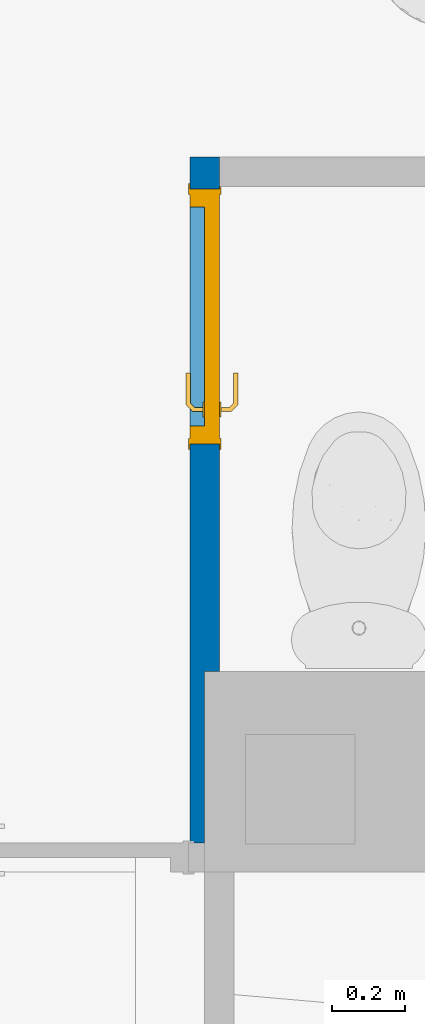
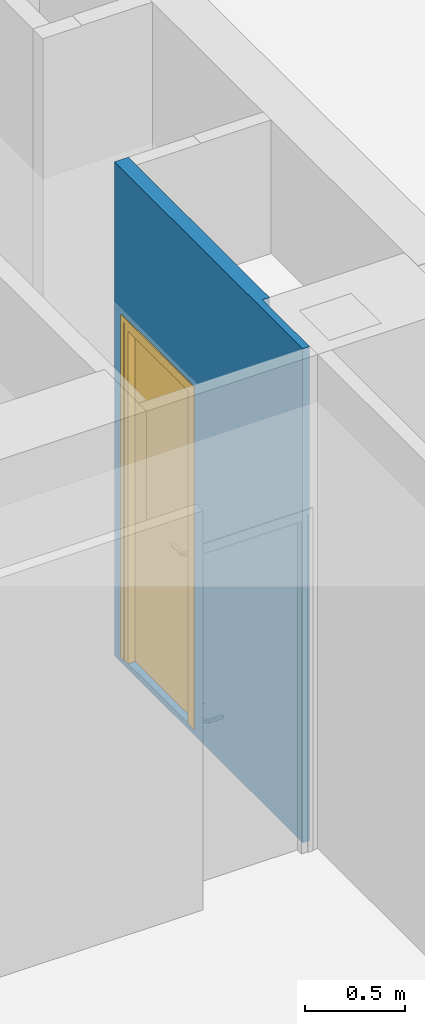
# One storey, part 47 of 97: 1 door, 1 wall, 1 opening.
"""IFC4 building model written with IfcOpenShell, lengths in metres."""

from ifc_helpers import new_model, entity, si_unit, converted_unit, derived_unit, direction, frame, origin, place, context, subcontext, project, spatial, indexed_curve, outline, extrude, polygons, source, transform, mapped, material, material_list, layer, layer_set, constituent, constituent_set, type_object, type_shapes, element, fill, save


model = new_model("IFC4")

# Units and contexts
model_context = context("Model", 3, precision=1e-05, world=origin(), true_north=direction((6.12303176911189e-17, 1.0)))
body_context = subcontext(model_context, "Body", "Model", "MODEL_VIEW")
ifc_project = project(units=[si_unit("LENGTHUNIT", "METRE"), si_unit("AREAUNIT", "SQUARE_METRE"), si_unit("VOLUMEUNIT", "CUBIC_METRE"), converted_unit("PLANEANGLEUNIT", "DEGREE", entity("IfcRatioMeasure", 0.0174532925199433), si_unit("PLANEANGLEUNIT", "RADIAN"), dimensions=[0, 0, 0, 0, 0, 0, 0]), si_unit("MASSUNIT", "GRAM", prefix="KILO"), derived_unit("MASSDENSITYUNIT", [(si_unit("MASSUNIT", "GRAM", prefix="KILO"), 1), (si_unit("LENGTHUNIT", "METRE"), -3)]), derived_unit("MOMENTOFINERTIAUNIT", [(si_unit("LENGTHUNIT", "METRE"), 4)]), si_unit("TIMEUNIT", "SECOND"), si_unit("FREQUENCYUNIT", "HERTZ"), si_unit("THERMODYNAMICTEMPERATUREUNIT", "DEGREE_CELSIUS"), derived_unit("THERMALTRANSMITTANCEUNIT", [(si_unit("MASSUNIT", "GRAM", prefix="KILO"), 1), (si_unit("THERMODYNAMICTEMPERATUREUNIT", "KELVIN"), -1), (si_unit("TIMEUNIT", "SECOND"), -3)]), derived_unit("VOLUMETRICFLOWRATEUNIT", [(si_unit("LENGTHUNIT", "METRE"), 3), (si_unit("TIMEUNIT", "SECOND"), -1)]), si_unit("ELECTRICCURRENTUNIT", "AMPERE"), si_unit("ELECTRICVOLTAGEUNIT", "VOLT"), si_unit("POWERUNIT", "WATT"), si_unit("FORCEUNIT", "NEWTON", prefix="KILO"), si_unit("ILLUMINANCEUNIT", "LUX"), si_unit("LUMINOUSFLUXUNIT", "LUMEN"), si_unit("LUMINOUSINTENSITYUNIT", "CANDELA"), derived_unit("USERDEFINED", [(si_unit("MASSUNIT", "GRAM", prefix="KILO"), -1), (si_unit("LENGTHUNIT", "METRE"), -2), (si_unit("TIMEUNIT", "SECOND"), 3), (si_unit("LUMINOUSFLUXUNIT", "LUMEN"), 1)]), derived_unit("LINEARVELOCITYUNIT", [(si_unit("LENGTHUNIT", "METRE"), 1), (si_unit("TIMEUNIT", "SECOND"), -1)]), si_unit("PRESSUREUNIT", "PASCAL"), derived_unit("USERDEFINED", [(si_unit("LENGTHUNIT", "METRE"), -2), (si_unit("MASSUNIT", "GRAM", prefix="KILO"), 1), (si_unit("TIMEUNIT", "SECOND"), -2)]), derived_unit("LINEARFORCEUNIT", [(si_unit("MASSUNIT", "GRAM", prefix="KILO"), 1), (si_unit("LENGTHUNIT", "METRE"), 1), (si_unit("TIMEUNIT", "SECOND"), -2), (si_unit("LENGTHUNIT", "METRE"), -1)]), derived_unit("PLANARFORCEUNIT", [(si_unit("MASSUNIT", "GRAM", prefix="KILO"), 1), (si_unit("LENGTHUNIT", "METRE"), 1), (si_unit("TIMEUNIT", "SECOND"), -2), (si_unit("LENGTHUNIT", "METRE"), -2)])], contexts=[model_context])

# Site, building, storey
site_placement = place(None, origin())
site = spatial("IfcSite", under=ifc_project, at=site_placement, Name="Default", CompositionType="ELEMENT")
building_placement = place(site_placement, origin())
building = spatial("IfcBuilding", under=site, at=building_placement, Name="HOTEL CONSULAIRE BOULOGNE SUR MER", CompositionType="ELEMENT")
storey_placement = place(building_placement, frame((0.0, 0.0, 3.62152697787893)))
storey = spatial("IfcBuildingStorey", under=building, at=storey_placement, Name="Niveau 1", CompositionType="ELEMENT", Elevation=3.62152697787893)

# Wall, opening, door
ifc_material_1 = material(Name="Mur par défaut", Category="Divers")
ifc_layer = layer(ifc_material_1, 0.08, Name="Mur par défaut", Category="Divers")
ifc_layer_set = layer_set([ifc_layer], Name="Mur de base:Générique - Int. 80")
wall_type = type_object("IfcWallType", Name="Mur de base:Générique - Int. 80", PredefinedType="NOTDEFINED", material=ifc_layer_set)
wall_placement = place(storey_placement, frame((11.2594778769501, -24.1627611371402, 0.0), z_axis=(0.0, 0.0, 1.0), x_axis=(0.0, 1.0, 0.0)))
wall = element("IfcWall", 1, at=wall_placement, inside=storey, type_object=wall_type, material=ifc_layer_set, Name="Mur de base:Générique - Int. 80", ObjectType="Mur de base:Générique - Int. 80", PredefinedType="NOTDEFINED", context=body_context, shape_type="Tessellation", body=[
    polygons([(1.88, -0.0399999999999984, 3.01021454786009), (0.470000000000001, -0.0399999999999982, 3.01021454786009), (0.470000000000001, -0.0399999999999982, 0.0), (1.8, -0.0399999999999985, 0.0), (1.88, -0.0399999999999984, 0.0), (1.79299999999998, -0.0399999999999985, 2.11000000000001), (1.79299999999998, -0.0399999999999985, 0.0349999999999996), (1.09299999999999, -0.0399999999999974, 0.0349999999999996), (1.09299999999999, -0.0399999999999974, 2.11000000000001), (0.0, 0.0400000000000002, 3.01021454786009), (1.88, 0.0400000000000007, 3.01021454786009), (1.88, 0.0400000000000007, 0.0), (0.0, 0.0400000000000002, 0.0), (1.79299999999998, 0.0400000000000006, 0.0349999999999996), (1.79299999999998, 0.0400000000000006, 2.11000000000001), (1.09299999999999, 0.0400000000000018, 2.11000000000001), (1.09299999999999, 0.0400000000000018, 0.0349999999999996), (0.0, 6.79068261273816e-16, 3.01021454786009), (0.470000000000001, 1.33988510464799e-15, 3.01021454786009), (0.470000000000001, 1.33988510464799e-15, 0.0), (0.0, 6.79068261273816e-16, 0.0)], [[[3, 4, 5, 1, 2], [9, 6, 7, 8]], [[18, 21, 20, 19]], [[12, 13, 10, 11], [15, 16, 17, 14]], [[1, 11, 10, 18, 19, 2]], [[14, 17, 8, 7]], [[19, 20, 3, 2]], [[10, 13, 21, 18]], [[15, 14, 7, 6]], [[1, 5, 12, 11]], [[17, 16, 9, 8]], [[16, 15, 6, 9]], [[21, 13, 12, 5, 4, 3, 20]]], closed=True),
])
opening_placement = place(wall_placement, frame((1.79299999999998, 0.0400000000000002, 0.0350000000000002)))
opening = element("IfcOpeningElement", 2, at=opening_placement, cuts=wall, Name="Int. Simple:PP (0.63m x 2.04m):1", ObjectType="Opening", PredefinedType="OPENING", context=body_context, shape_type="SweptSolid", body=[
    extrude(outline(indexed_curve([(0.0, 2.70716782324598e-15), (2.07500000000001, 2.70716782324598e-15), (2.07500000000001, 0.699999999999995), (0.0, 0.699999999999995), (0.0, 2.70716782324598e-15)], self_intersect=False)), frame((0.0, 0.0, 0.0), z_axis=(0.0, -1.0, 0.0), x_axis=(0.0, 0.0, 1.0)), (0.0, 0.0, 1.0), 0.08),
])
ifc_material_2 = material(Name="Finition Peinture - Blanc satiné", Category="Peinture")
ifc_constituent_1 = constituent(ifc_material_2, Name="Finition Peinture - Blanc satiné", Category="Matériaux")
ifc_material_3 = material(Name="Bois - Panneau de porte", Category="Bois")
ifc_constituent_2 = constituent(ifc_material_3, Name="Bois - Panneau de porte", Category="Matériaux")
ifc_material_4 = material(Name="Bois - Cadre de porte", Category="Bois")
ifc_constituent_3 = constituent(ifc_material_4, Name="Bois - Cadre de porte", Category="Matériaux")
ifc_constituent_set = constituent_set(constituents=[ifc_constituent_1, ifc_constituent_2, ifc_constituent_3], Name="MaterialConstituentSet")
ifc_material_list = material_list([ifc_material_3, ifc_material_4, ifc_material_4, ifc_material_2])
door_type = type_object("IfcDoorType", Name="Int. Simple:PP (0.63m x 2.04m)", OperationType="NOTDEFINED", PredefinedType="DOOR", material=ifc_material_list)
shared_shape = source(origin(), body_context, "Body", "Tessellation", [
    polygons([(0.0750000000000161, -0.00500000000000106, 0.870000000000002), (0.0846472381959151, -0.00500000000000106, 0.866003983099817), (0.0950000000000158, -0.00500000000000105, 0.86464101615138), (0.105352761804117, -0.00500000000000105, 0.866003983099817), (0.115000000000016, -0.00500000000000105, 0.870000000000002), (0.115000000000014, -0.00500000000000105, 1.08), (0.105352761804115, -0.00500000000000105, 1.08399601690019), (0.0950000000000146, -0.00500000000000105, 1.08535898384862), (0.0846472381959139, -0.00500000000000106, 1.08399601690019), (0.0750000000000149, -0.00500000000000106, 1.08), (0.0750000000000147, -1.06594733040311e-15, 0.870000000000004), (0.075000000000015, -1.06594733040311e-15, 1.08), (0.084647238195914, -1.06594733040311e-15, 1.08399601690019), (0.0950000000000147, -1.05748743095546e-15, 1.08535898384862), (0.105352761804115, -1.05748743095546e-15, 1.08399601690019), (0.115000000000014, -1.04902753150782e-15, 1.08), (0.115000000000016, -1.04902753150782e-15, 0.870000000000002), (0.105352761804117, -1.05748743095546e-15, 0.866003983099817), (0.0950000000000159, -1.05748743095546e-15, 0.86464101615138), (0.0846472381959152, -1.06594733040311e-15, 0.866003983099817)], [[[4, 5, 6, 7, 8, 9, 10, 1, 2, 3]], [[15, 16, 17, 18, 19, 20, 11, 12, 13, 14]], [[11, 20, 2, 1]], [[2, 20, 19, 3]], [[19, 18, 4, 3]], [[18, 17, 5, 4]], [[6, 5, 17, 16]], [[16, 15, 7, 6]], [[7, 15, 14, 8]], [[14, 13, 9, 8]], [[13, 12, 10, 9]], [[1, 10, 12, 11]]], closed=True),
    polygons([(0.115000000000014, 0.0399999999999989, 1.08), (0.105352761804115, 0.0399999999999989, 1.08399601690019), (0.0950000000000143, 0.0399999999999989, 1.08535898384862), (0.0846472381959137, 0.0399999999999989, 1.08399601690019), (0.0750000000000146, 0.0399999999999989, 1.08), (0.0750000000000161, 0.0399999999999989, 0.870000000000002), (0.0846472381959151, 0.0399999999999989, 0.866003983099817), (0.0950000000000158, 0.0399999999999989, 0.86464101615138), (0.105352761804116, 0.0399999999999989, 0.866003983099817), (0.115000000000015, 0.0399999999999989, 0.870000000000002), (0.115000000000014, 0.0449999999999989, 1.08), (0.115000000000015, 0.0449999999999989, 0.870000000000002), (0.105352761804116, 0.0449999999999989, 0.866003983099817), (0.0950000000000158, 0.0449999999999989, 0.86464101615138), (0.0846472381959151, 0.0449999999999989, 0.866003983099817), (0.0750000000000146, 0.0449999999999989, 0.870000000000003), (0.0750000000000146, 0.0449999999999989, 1.08), (0.0846472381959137, 0.0449999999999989, 1.08399601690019), (0.0950000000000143, 0.0449999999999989, 1.08535898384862), (0.105352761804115, 0.0449999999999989, 1.08399601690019)], [[[9, 10, 1, 2, 3, 4, 5, 6, 7, 8]], [[20, 11, 12, 13, 14, 15, 16, 17, 18, 19]], [[11, 20, 2, 1]], [[2, 20, 19, 3]], [[19, 18, 4, 3]], [[18, 17, 5, 4]], [[6, 5, 17, 16]], [[16, 15, 7, 6]], [[7, 15, 14, 8]], [[14, 13, 9, 8]], [[13, 12, 10, 9]], [[1, 10, 12, 11]]], closed=True),
    polygons([(0.0889999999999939, -0.00500000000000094, 1.007), (0.0929747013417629, -0.00500000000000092, 1.00778044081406), (0.0970252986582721, -0.0050000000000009, 1.00778044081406), (0.101000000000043, -0.00500000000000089, 1.00699999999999), (0.101000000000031, -0.00500000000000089, 0.993000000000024), (0.097025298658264, -0.0050000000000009, 0.992219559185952), (0.0929747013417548, -0.00500000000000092, 0.99221955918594), (0.088999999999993, -0.00500000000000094, 0.992999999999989), (0.0889999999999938, -0.0326509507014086, 1.007), (0.0929747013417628, -0.0310045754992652, 1.00778044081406), (0.097025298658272, -0.0293267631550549, 1.00778044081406), (0.101000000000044, -0.0276803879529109, 1.007), (0.101000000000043, -0.0276803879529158, 0.993000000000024), (0.097025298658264, -0.0293267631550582, 0.992219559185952), (0.0929747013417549, -0.0310045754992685, 0.99221955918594), (0.0889999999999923, -0.0326509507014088, 0.992999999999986), (0.107377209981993, -0.0510281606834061, 1.007), (0.109023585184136, -0.0470534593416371, 1.00778044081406), (0.110701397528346, -0.0430028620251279, 1.00778044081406), (0.112347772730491, -0.0390281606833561, 1.007), (0.112347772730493, -0.0390281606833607, 0.993000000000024), (0.110701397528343, -0.0430028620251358, 0.992219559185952), (0.109023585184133, -0.047053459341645, 0.99221955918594), (0.107377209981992, -0.0510281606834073, 0.992999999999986), (0.195018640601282, -0.0510281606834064, 1.00699999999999), (0.195018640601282, -0.0510281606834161, 0.992999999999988), (0.195018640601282, -0.0470534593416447, 0.99221955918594), (0.195018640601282, -0.0430028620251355, 0.992219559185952), (0.195018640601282, -0.039028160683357, 0.993000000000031), (0.195018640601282, -0.0390281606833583, 1.007), (0.195018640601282, -0.0430028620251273, 1.00778044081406), (0.195018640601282, -0.0470534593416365, 1.00778044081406), (0.147307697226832, -0.0510281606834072, 1.007), (0.152860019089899, -0.045028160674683, 1.0078786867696), (0.153683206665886, -0.039028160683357, 1.007), (0.147307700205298, -0.0510281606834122, 0.992999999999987), (0.152860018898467, -0.0450281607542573, 0.992121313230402), (0.153683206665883, -0.039028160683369, 0.993000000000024)], [[[2, 3, 4, 5, 6, 7, 8, 1]], [[21, 20, 35, 30, 29, 38]], [[9, 10, 2, 1]], [[10, 18, 19, 11, 3, 2]], [[11, 12, 4, 3]], [[5, 4, 12, 13]], [[26, 27, 28, 29, 30, 31, 32, 25]], [[13, 14, 6, 5]], [[14, 22, 23, 15, 7, 6]], [[15, 16, 8, 7]], [[1, 8, 16, 9]], [[17, 18, 10, 9]], [[19, 20, 12, 11]], [[13, 12, 20, 21]], [[21, 22, 14, 13]], [[23, 24, 16, 15]], [[9, 16, 24, 17]], [[33, 32, 34]], [[25, 32, 33]], [[18, 17, 33]], [[34, 35, 19]], [[20, 19, 35]], [[35, 31, 30]], [[32, 31, 34]], [[31, 35, 34]], [[18, 33, 34]], [[18, 34, 19]], [[38, 28, 37]], [[36, 37, 27]], [[21, 38, 22]], [[38, 29, 28]], [[26, 36, 27]], [[24, 23, 36]], [[36, 23, 37]], [[23, 22, 37]], [[22, 38, 37]], [[27, 37, 28]], [[17, 24, 36, 26, 25, 33]]], closed=True),
    polygons([(0.101000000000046, 0.0449999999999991, 0.993000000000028), (0.101000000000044, 0.0449999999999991, 1.007), (0.0970252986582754, 0.0449999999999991, 1.00778044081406), (0.0929747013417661, 0.0449999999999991, 1.00778044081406), (0.0889999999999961, 0.044999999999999, 1.007), (0.0889999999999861, 0.044999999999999, 0.992999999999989), (0.0929747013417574, 0.0449999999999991, 0.99221955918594), (0.0970252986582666, 0.0449999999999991, 0.992219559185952), (0.101000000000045, 0.067485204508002, 0.993000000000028), (0.101000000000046, 0.0674852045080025, 1.007), (0.0970252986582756, 0.0691315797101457, 1.00778044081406), (0.0929747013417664, 0.070809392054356, 1.00778044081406), (0.0889999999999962, 0.0724557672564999, 1.007), (0.0889999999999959, 0.072455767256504, 0.992999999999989), (0.0929747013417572, 0.0708093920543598, 0.99221955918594), (0.0970252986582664, 0.0691315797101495, 0.992219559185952), (0.112485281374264, 0.0789704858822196, 0.993000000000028), (0.112485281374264, 0.0789704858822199, 1.007), (0.11083890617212, 0.0829451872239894, 1.00778044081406), (0.10916109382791, 0.0869957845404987, 1.00778044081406), (0.107514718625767, 0.0909704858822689, 1.007), (0.107514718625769, 0.090970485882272, 0.992999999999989), (0.109161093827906, 0.0869957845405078, 0.99221955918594), (0.110838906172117, 0.0829451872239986, 0.992219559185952), (0.19504578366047, 0.0789704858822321, 0.993000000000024), (0.19504578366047, 0.0829451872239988, 0.992219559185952), (0.19504578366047, 0.086995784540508, 0.99221955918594), (0.19504578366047, 0.0909704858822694, 0.992999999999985), (0.19504578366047, 0.0909704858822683, 1.007), (0.19504578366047, 0.0869957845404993, 1.00778044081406), (0.19504578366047, 0.0829451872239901, 1.00778044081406), (0.19504578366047, 0.0789704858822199, 1.007), (0.147445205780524, 0.0909704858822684, 1.007), (0.15294234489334, 0.0849704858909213, 1.0078786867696), (0.153765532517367, 0.0789704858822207, 1.007), (0.147445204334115, 0.0909704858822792, 0.992999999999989), (0.152942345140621, 0.0849704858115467, 0.992121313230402), (0.153765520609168, 0.0789704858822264, 0.993000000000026)], [[[4, 5, 6, 7, 8, 1, 2, 3]], [[18, 17, 38, 25, 32, 35]], [[2, 1, 9, 10]], [[25, 26, 27, 28, 29, 30, 31, 32]], [[10, 11, 3, 2]], [[11, 19, 20, 12, 4, 3]], [[12, 13, 5, 4]], [[6, 5, 13, 14]], [[14, 15, 7, 6]], [[15, 23, 24, 16, 8, 7]], [[16, 9, 1, 8]], [[10, 9, 17, 18]], [[18, 19, 11, 10]], [[20, 21, 13, 12]], [[14, 13, 21, 22]], [[22, 23, 15, 14]], [[24, 17, 9, 16]], [[35, 31, 34]], [[33, 34, 30]], [[18, 35, 19]], [[35, 32, 31]], [[29, 33, 30]], [[21, 20, 33]], [[33, 20, 34]], [[20, 19, 34]], [[19, 35, 34]], [[30, 34, 31]], [[21, 33, 29, 28, 36, 22]], [[36, 27, 37]], [[28, 27, 36]], [[23, 22, 36]], [[37, 38, 24]], [[17, 24, 38]], [[38, 26, 25]], [[27, 26, 37]], [[26, 38, 37]], [[23, 36, 37]], [[23, 37, 24]]], closed=True),
    polygons([(0.0350000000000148, 0.04, 2.04), (0.665000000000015, 0.04, 2.04), (0.665000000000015, 0.04, 0.0), (0.0350000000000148, 0.04, 0.0), (0.0350000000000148, 3.38395977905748e-17, 2.04), (0.0350000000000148, 3.38395977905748e-17, 0.0), (0.665000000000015, 3.38395977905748e-17, 0.0), (0.665000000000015, 3.38395977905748e-17, 2.04)], [[[4, 1, 2, 3]], [[7, 8, 5, 6]], [[2, 1, 5, 8]], [[3, 2, 8, 7]], [[4, 3, 7, 6]], [[1, 4, 6, 5]]], closed=True),
    polygons([(-2.70716782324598e-16, -8.45989944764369e-18, 0.0), (-2.70716782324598e-16, 0.080000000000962, 0.0), (0.050000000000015, 0.080000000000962, 0.0), (0.050000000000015, 0.0400000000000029, 0.0), (0.0350000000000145, 0.0400000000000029, 0.0), (0.0350000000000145, -8.45989944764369e-18, 0.0), (-2.03037586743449e-16, -8.45989944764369e-18, 2.07500000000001), (-2.03037586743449e-16, 0.080000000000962, 2.07500000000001), (0.699999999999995, 0.080000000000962, 2.07500000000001), (0.699999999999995, 0.080000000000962, 1.16645647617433e-24), (0.64999999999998, 0.080000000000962, -1.79828591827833e-24), (0.64999999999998, 0.080000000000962, 2.025), (0.0500000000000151, 0.080000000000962, 2.02499999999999), (0.0500000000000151, 0.0400000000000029, 2.02499999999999), (0.64999999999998, 0.0400000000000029, 2.025), (0.64999999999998, 0.0400000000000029, 1.49408317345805e-25), (0.66499999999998, 0.0400000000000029, 1.4641916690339e-24), (0.66499999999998, 0.0400000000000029, 2.04), (0.0350000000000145, 0.0400000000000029, 2.04), (0.0350000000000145, -8.45989944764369e-18, 2.04), (0.66499999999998, -8.45989944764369e-18, 2.04), (0.66499999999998, -8.45989944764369e-18, 0.0), (0.699999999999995, -8.45989944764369e-18, 4.03399441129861e-24), (0.699999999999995, -8.45989944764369e-18, 2.07500000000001)], [[[5, 6, 1, 2, 3, 4]], [[11, 10, 23, 22, 17, 16]], [[14, 13, 12, 15]], [[20, 19, 18, 21]], [[2, 1, 7, 8]], [[15, 12, 11, 16]], [[21, 18, 17, 22]], [[3, 2, 8, 9, 10, 11, 12, 13]], [[4, 3, 13, 14]], [[6, 5, 19, 20]], [[9, 24, 23, 10]], [[16, 17, 18, 19, 5, 4, 14, 15]], [[22, 23, 24, 7, 1, 6, 20, 21]], [[8, 7, 24, 9]]], closed=True),
    polygons([(0.0149999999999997, 0.080000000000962, 0.0), (-0.0150000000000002, 0.080000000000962, 0.0), (-0.0150000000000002, 0.085000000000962, 0.0), (0.0149999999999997, 0.085000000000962, 0.0), (0.0149999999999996, 0.080000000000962, 2.06000000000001), (0.684999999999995, 0.080000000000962, 2.06000000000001), (0.684999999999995, 0.080000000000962, -5.40476895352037e-24), (0.714999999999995, 0.080000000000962, 1.09662010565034e-24), (0.714999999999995, 0.080000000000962, 2.09000000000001), (-0.0150000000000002, 0.080000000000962, 2.09000000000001), (-0.0150000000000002, 0.085000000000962, 2.09000000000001), (0.714999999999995, 0.085000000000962, 2.09000000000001), (0.714999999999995, 0.085000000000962, 9.94022571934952e-24), (0.684999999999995, 0.085000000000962, 3.01102000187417e-24), (0.684999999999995, 0.085000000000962, 2.06000000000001), (0.0149999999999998, 0.085000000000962, 2.06000000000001)], [[[1, 2, 3, 4]], [[14, 13, 8, 7]], [[5, 16, 15, 6]], [[7, 8, 9, 10, 2, 1, 5, 6]], [[3, 2, 10, 11]], [[6, 15, 14, 7]], [[4, 3, 11, 12, 13, 14, 15, 16]], [[1, 4, 16, 5]], [[12, 9, 8, 13]], [[11, 10, 9, 12]]], closed=True),
    polygons([(0.0149999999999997, -0.00499999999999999, 0.0), (-0.0150000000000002, -0.00499999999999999, 0.0), (-0.0150000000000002, -8.45989944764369e-18, 0.0), (0.0149999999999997, -8.45989944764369e-18, 0.0), (0.684999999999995, -0.00499999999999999, -5.41433564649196e-16), (0.684999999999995, -8.45989944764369e-18, -5.41433564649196e-16), (0.714999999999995, -8.45989944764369e-18, -5.41433564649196e-16), (0.714999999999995, -0.00499999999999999, -5.41433564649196e-16), (0.0149999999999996, -0.00499999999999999, 2.06000000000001), (0.684999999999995, -0.00499999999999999, 2.06000000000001), (0.714999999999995, -0.00499999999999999, 2.09000000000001), (-0.0150000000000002, -0.00499999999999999, 2.09000000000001), (-0.0150000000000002, -8.45989944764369e-18, 2.09000000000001), (0.714999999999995, -8.45989944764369e-18, 2.09000000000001), (0.684999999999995, -8.45989944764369e-18, 2.06000000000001), (0.0149999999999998, -8.45989944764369e-18, 2.06000000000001)], [[[1, 2, 3, 4]], [[6, 7, 8, 5]], [[9, 16, 15, 10]], [[5, 8, 11, 12, 2, 1, 9, 10]], [[3, 2, 12, 13]], [[10, 15, 6, 5]], [[4, 3, 13, 14, 7, 6, 15, 16]], [[1, 4, 16, 9]], [[14, 11, 8, 7]], [[13, 12, 11, 14]]], closed=True),
])
type_shapes(door_type, [shared_shape])
door_placement = place(opening_placement, frame((-0.699999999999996, -0.0800000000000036, 0.0)))
door = element("IfcDoor", 3, at=door_placement, inside=storey, type_object=door_type, material=ifc_constituent_set, Name="Int. Simple:PP (0.63m x 2.04m)", ObjectType="Int. Simple:PP (0.63m x 2.04m)", OperationType="NOTDEFINED", OverallHeight=2.07500000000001, OverallWidth=0.699999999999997, PredefinedType="DOOR", context=body_context, shape_type="MappedRepresentation", body=[
    mapped(shared_shape, transform((0.0, 0.0, 0.0), scale=1.0)),
])
fill(opening, door)

save(model, "model.ifc")
